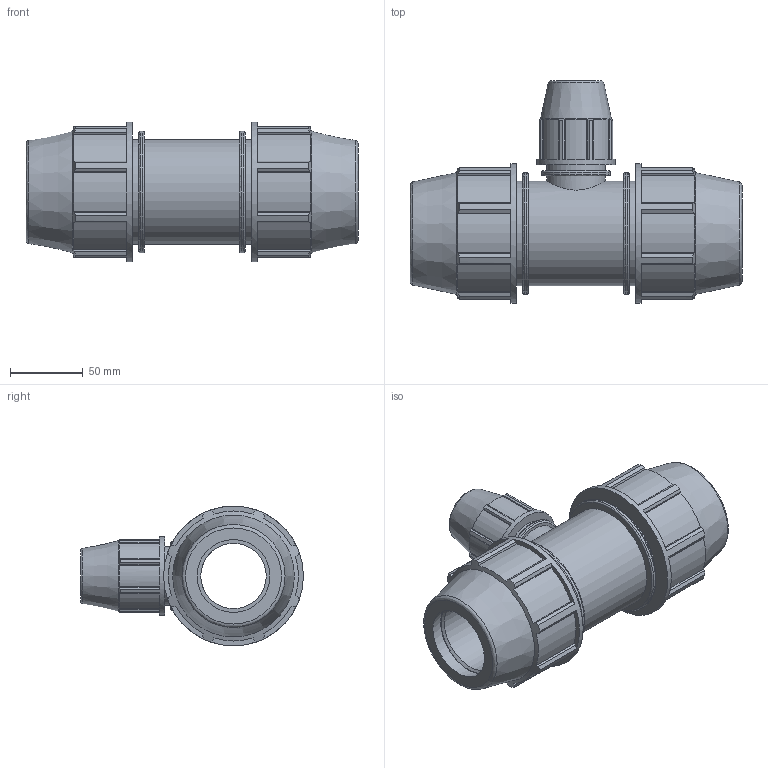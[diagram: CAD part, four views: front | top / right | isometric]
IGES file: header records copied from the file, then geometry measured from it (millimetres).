
Global section: file name: 073400050025_183400050025_0734060500250A.ipt; native system: Autodesk Inventor 2015; preprocessor: unknown; author: Кирилл,,11,0; organization: 20170224.180708; date: 20170606.172357; units: millimetre
Bounding box: 228 x 153 x 96 mm (x, y, z)
Volume: 819511.8 mm3; surface area: 134012.4 mm2
Topology: 1 solids, 1 shells, 199 faces, 566 edges, 383 vertices
Faces by surface type: plane 138, cylinder 35, revolution 20, cone 6
Full cylindrical faces by diameter (mm): 40.5 x2, 46.98 x1, 54 x1, 72 x3, 83.52 x2, 96 x2
